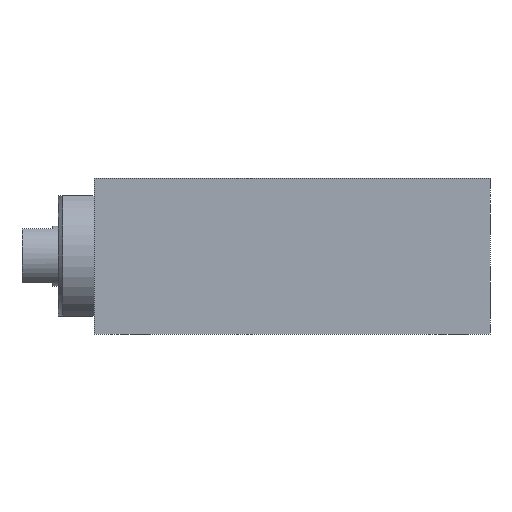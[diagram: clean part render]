
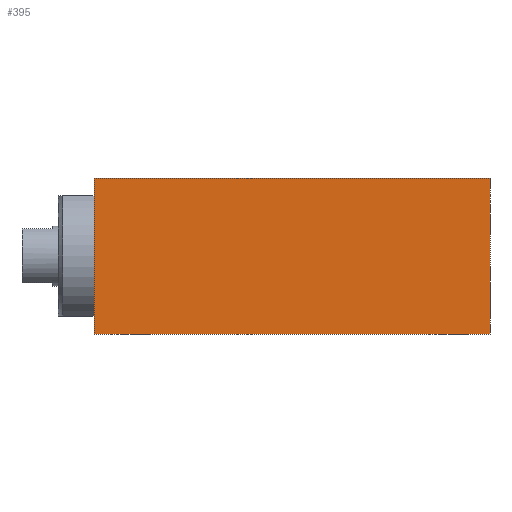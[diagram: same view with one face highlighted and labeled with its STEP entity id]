
A CAD part, front view. The second image highlights one B-rep face of the part: STEP entity #395.
In plain terms, the highlighted planar face has unit normal (0, -1, 0).
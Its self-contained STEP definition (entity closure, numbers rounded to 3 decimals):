
#15 = VERTEX_POINT ( 'NONE', #823 ) ;
#101 = CARTESIAN_POINT ( 'NONE',  ( 0., -11., -6.5 ) ) ;
#131 = VECTOR ( 'NONE', #681, 1000. ) ;
#192 = DIRECTION ( 'NONE',  ( -1., 0., 0. ) ) ;
#395 = ADVANCED_FACE ( 'NONE', ( #2468 ), #2251, .T. ) ;
#512 = VECTOR ( 'NONE', #192, 1000. ) ;
#593 = CARTESIAN_POINT ( 'NONE',  ( 33., -11., -6.5 ) ) ;
#606 = CARTESIAN_POINT ( 'NONE',  ( 0., -11., -6.5 ) ) ;
#628 = ORIENTED_EDGE ( 'NONE', *, *, #2225, .F. ) ;
#637 = VERTEX_POINT ( 'NONE', #2062 ) ;
#681 = DIRECTION ( 'NONE',  ( 0., 0., 1. ) ) ;
#823 = CARTESIAN_POINT ( 'NONE',  ( 0., -11., 6.5 ) ) ;
#1098 = DIRECTION ( 'NONE',  ( 1., 0., 0. ) ) ;
#1146 = VECTOR ( 'NONE', #2429, 1000. ) ;
#1159 = EDGE_CURVE ( 'NONE', #2779, #15, #2347, .T. ) ;
#1219 = ORIENTED_EDGE ( 'NONE', *, *, #1938, .F. ) ;
#1317 = LINE ( 'NONE', #1553, #131 ) ;
#1386 = EDGE_LOOP ( 'NONE', ( #628, #1219, #2774, #2353 ) ) ;
#1431 = EDGE_CURVE ( 'NONE', #637, #2779, #1317, .T. ) ;
#1553 = CARTESIAN_POINT ( 'NONE',  ( 33., -11., -6.5 ) ) ;
#1679 = DIRECTION ( 'NONE',  ( -1., 0., 0. ) ) ;
#1741 = LINE ( 'NONE', #101, #1146 ) ;
#1767 = AXIS2_PLACEMENT_3D ( 'NONE', #593, #2238, #1098 ) ;
#1806 = VECTOR ( 'NONE', #1679, 1000. ) ;
#1938 = EDGE_CURVE ( 'NONE', #637, #2312, #2693, .T. ) ;
#2062 = CARTESIAN_POINT ( 'NONE',  ( 33., -11., -6.5 ) ) ;
#2225 = EDGE_CURVE ( 'NONE', #2312, #15, #1741, .T. ) ;
#2238 = DIRECTION ( 'NONE',  ( 0., -1., 0. ) ) ;
#2251 = PLANE ( 'NONE',  #1767 ) ;
#2312 = VERTEX_POINT ( 'NONE', #606 ) ;
#2347 = LINE ( 'NONE', #2828, #1806 ) ;
#2353 = ORIENTED_EDGE ( 'NONE', *, *, #1159, .T. ) ;
#2429 = DIRECTION ( 'NONE',  ( 0., 0., 1. ) ) ;
#2468 = FACE_OUTER_BOUND ( 'NONE', #1386, .T. ) ;
#2650 = CARTESIAN_POINT ( 'NONE',  ( 33., -11., 6.5 ) ) ;
#2693 = LINE ( 'NONE', #2740, #512 ) ;
#2740 = CARTESIAN_POINT ( 'NONE',  ( 33., -11., -6.5 ) ) ;
#2774 = ORIENTED_EDGE ( 'NONE', *, *, #1431, .T. ) ;
#2779 = VERTEX_POINT ( 'NONE', #2650 ) ;
#2828 = CARTESIAN_POINT ( 'NONE',  ( 33., -11., 6.5 ) ) ;
